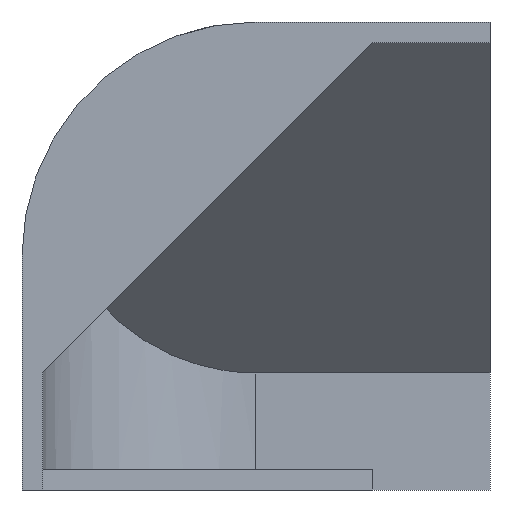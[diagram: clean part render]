
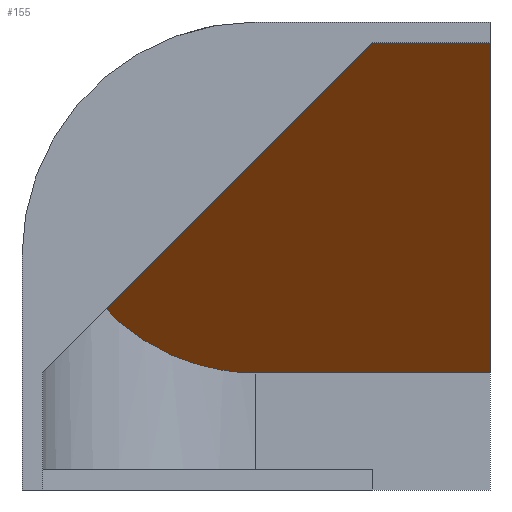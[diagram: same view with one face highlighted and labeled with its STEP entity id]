
A CAD part, left-side view. The second image highlights one B-rep face of the part: STEP entity #155.
In plain terms, the highlighted planar face has unit normal (-0.718, 0, -0.696).
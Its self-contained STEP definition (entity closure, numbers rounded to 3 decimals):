
#6 = CARTESIAN_POINT ( 'NONE',  ( -10.25, -22.5, 43. ) ) ;
#21 = VERTEX_POINT ( 'NONE', #795 ) ;
#32 = EDGE_CURVE ( 'NONE', #242, #815, #375, .T. ) ;
#40 = FACE_OUTER_BOUND ( 'NONE', #768, .T. ) ;
#42 = ORIENTED_EDGE ( 'NONE', *, *, #580, .F. ) ;
#46 = DIRECTION ( 'NONE',  ( -0.696, 0., 0.718 ) ) ;
#57 = DIRECTION ( 'NONE',  ( 0., -1., 0. ) ) ;
#68 = CARTESIAN_POINT ( 'NONE',  ( -10.25, 0., 43. ) ) ;
#72 = CARTESIAN_POINT ( 'NONE',  ( 0., 17.942, 32.417 ) ) ;
#129 = ORIENTED_EDGE ( 'NONE', *, *, #235, .T. ) ;
#155 = ADVANCED_FACE ( 'NONE', ( #40 ), #823, .T. ) ;
#170 = DIRECTION ( 'NONE',  ( -0.696, 0., 0.718 ) ) ;
#187 = CIRCLE ( 'NONE', #722, 19.304 ) ;
#214 = CARTESIAN_POINT ( 'NONE',  ( -10.25, 7.651, 43. ) ) ;
#235 = EDGE_CURVE ( 'NONE', #825, #658, #413, .T. ) ;
#242 = VERTEX_POINT ( 'NONE', #275 ) ;
#249 = VECTOR ( 'NONE', #721, 1000. ) ;
#267 = EDGE_CURVE ( 'NONE', #727, #21, #326, .T. ) ;
#275 = CARTESIAN_POINT ( 'NONE',  ( -10.25, 0., 43. ) ) ;
#297 = CARTESIAN_POINT ( 'NONE',  ( -10.25, 500000., 43. ) ) ;
#300 = CARTESIAN_POINT ( 'NONE',  ( 0., 17.942, 32.417 ) ) ;
#309 = DIRECTION ( 'NONE',  ( -0.718, 0., -0.696 ) ) ;
#326 = LINE ( 'NONE', #6, #249 ) ;
#338 = CARTESIAN_POINT ( 'NONE',  ( -6.485, 14.241, 39.113 ) ) ;
#350 = VECTOR ( 'NONE', #57, 1000. ) ;
#355 = DIRECTION ( 'NONE',  ( -0.718, 0., -0.696 ) ) ;
#375 =( BOUNDED_CURVE ( )  B_SPLINE_CURVE ( 3, ( #68, #214, #338, #72 ),
 .UNSPECIFIED., .F., .T. ) 
 B_SPLINE_CURVE_WITH_KNOTS ( ( 4, 4 ),
 ( 3.142, 4.207 ),
 .UNSPECIFIED. ) 
 CURVE ( )  GEOMETRIC_REPRESENTATION_ITEM ( )  RATIONAL_B_SPLINE_CURVE ( ( 1., 0.908, 0.908, 1. ) ) 
 REPRESENTATION_ITEM ( '' )  );
#384 = CARTESIAN_POINT ( 'NONE',  ( 9.604, 18.111, 22.5 ) ) ;
#397 = CARTESIAN_POINT ( 'NONE',  ( 20.5, 0., 11.25 ) ) ;
#413 =( BOUNDED_CURVE ( )  B_SPLINE_CURVE ( 3, ( #384, #528, #524, #657 ),
 .UNSPECIFIED., .F., .T. ) 
 B_SPLINE_CURVE_WITH_KNOTS ( ( 4, 4 ),
 ( 5.2, 6.283 ),
 .UNSPECIFIED. ) 
 CURVE ( )  GEOMETRIC_REPRESENTATION_ITEM ( )  RATIONAL_B_SPLINE_CURVE ( ( 1., 0.905, 0.905, 1. ) ) 
 REPRESENTATION_ITEM ( '' )  );
#435 = AXIS2_PLACEMENT_3D ( 'NONE', #297, #355, #170 ) ;
#438 = DIRECTION ( 'NONE',  ( 0., -1., 0. ) ) ;
#446 = ORIENTED_EDGE ( 'NONE', *, *, #32, .T. ) ;
#449 = CARTESIAN_POINT ( 'NONE',  ( -10.25, 500000., 43. ) ) ;
#516 = CARTESIAN_POINT ( 'NONE',  ( 20.5, 500000., 11.25 ) ) ;
#524 = CARTESIAN_POINT ( 'NONE',  ( 20.5, 7.788, 11.25 ) ) ;
#528 = CARTESIAN_POINT ( 'NONE',  ( 16.485, 14.462, 15.396 ) ) ;
#575 = EDGE_CURVE ( 'NONE', #658, #21, #775, .T. ) ;
#580 = EDGE_CURVE ( 'NONE', #242, #727, #787, .T. ) ;
#595 = ORIENTED_EDGE ( 'NONE', *, *, #267, .F. ) ;
#639 = CARTESIAN_POINT ( 'NONE',  ( 4.956, 0., 27.3 ) ) ;
#643 = ORIENTED_EDGE ( 'NONE', *, *, #807, .T. ) ;
#657 = CARTESIAN_POINT ( 'NONE',  ( 20.5, 0., 11.25 ) ) ;
#658 = VERTEX_POINT ( 'NONE', #397 ) ;
#663 = VECTOR ( 'NONE', #438, 1000. ) ;
#679 = CARTESIAN_POINT ( 'NONE',  ( -10.25, -22.5, 43. ) ) ;
#702 = CARTESIAN_POINT ( 'NONE',  ( 9.604, 18.111, 22.5 ) ) ;
#721 = DIRECTION ( 'NONE',  ( 0.696, 0., -0.718 ) ) ;
#722 = AXIS2_PLACEMENT_3D ( 'NONE', #639, #309, #46 ) ;
#727 = VERTEX_POINT ( 'NONE', #679 ) ;
#768 = EDGE_LOOP ( 'NONE', ( #42, #446, #643, #129, #801, #595 ) ) ;
#775 = LINE ( 'NONE', #516, #663 ) ;
#787 = LINE ( 'NONE', #449, #350 ) ;
#795 = CARTESIAN_POINT ( 'NONE',  ( 20.5, -22.5, 11.25 ) ) ;
#801 = ORIENTED_EDGE ( 'NONE', *, *, #575, .T. ) ;
#807 = EDGE_CURVE ( 'NONE', #815, #825, #187, .T. ) ;
#815 = VERTEX_POINT ( 'NONE', #300 ) ;
#823 = PLANE ( 'NONE',  #435 ) ;
#825 = VERTEX_POINT ( 'NONE', #702 ) ;
